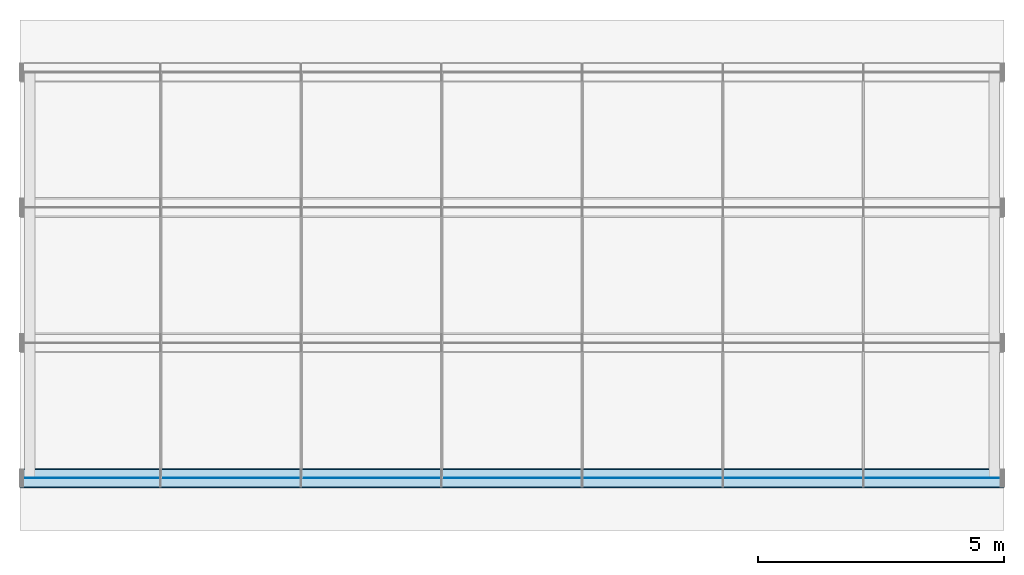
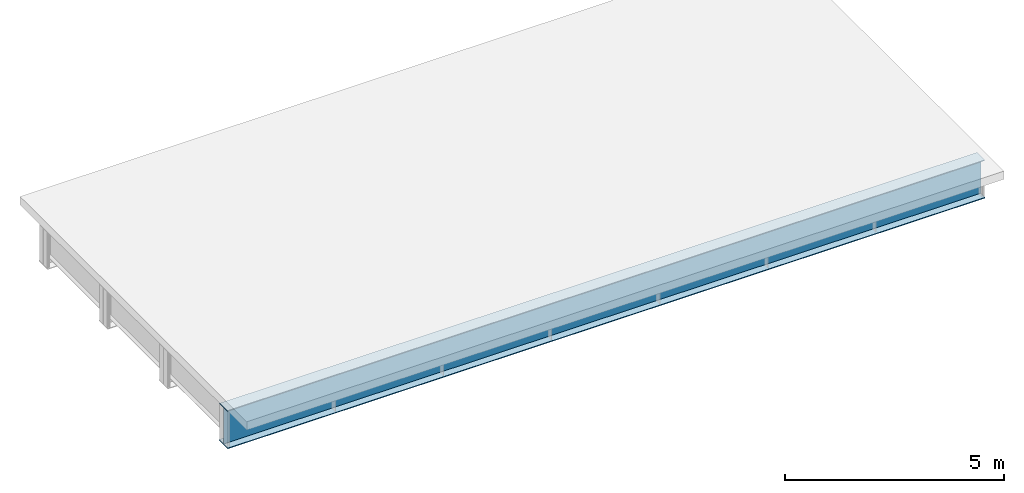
# One storey, part 3 of 12: 3 plates.
"""IFC4 building model written with IfcOpenShell, lengths in metres."""

from ifc_helpers import new_model, si_unit, frame, origin, origin_with_axes, origin_2d_with_axis, place, context, subcontext, project, spatial, rectangle, extrude, element, save


model = new_model("IFC4")

# Units and contexts
model_context = context("Model", 3, precision=1e-05, world=origin())
body_context = subcontext(model_context, "Body", "Model", "MODEL_VIEW")
ifc_project = project(units=[si_unit("LENGTHUNIT", "METRE"), si_unit("AREAUNIT", "SQUARE_METRE"), si_unit("VOLUMEUNIT", "CUBIC_METRE"), si_unit("PLANEANGLEUNIT", "RADIAN")], contexts=[model_context])

# Site, building, storey
site_placement = place(None, origin_with_axes())
site = spatial("IfcSite", under=ifc_project, at=site_placement, Name="Default Site")
building_placement = place(site_placement, origin_with_axes())
building = spatial("IfcBuilding", under=site, at=building_placement, Name="Bridge Structure")
storey_placement = place(building_placement, origin_with_axes())
storey = spatial("IfcBuildingStorey", under=building, at=storey_placement, Name="Superstructure")

# Plates
plate_1_placement = place(storey_placement, frame((0.0, -4.125, 0.0), z_axis=(1.0, 0.0, 0.0), x_axis=(0.0, 1.0, 0.0)))
element("IfcPlate", 1, at=plate_1_placement, inside=storey, Name="Girder Web 1", context=body_context, shape_type="SweptSolid", body=[
    extrude(rectangle(XDim=0.012, YDim=1.01, at=origin_2d_with_axis()), origin_with_axes(), (0.0, 0.0, 1.0), 20.0),
])
plate_2_placement = place(storey_placement, frame((0.0, -4.125, 0.514), z_axis=(1.0, 0.0, 0.0), x_axis=(0.0, 1.0, 0.0)))
element("IfcPlate", 2, at=plate_2_placement, inside=storey, Name="Top Flange 1", context=body_context, shape_type="SweptSolid", body=[
    extrude(rectangle(XDim=0.35000000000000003, YDim=0.018000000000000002, at=origin_2d_with_axis()), origin_with_axes(), (0.0, 0.0, 1.0), 20.0),
])
plate_3_placement = place(storey_placement, frame((0.0, -4.125, -0.516), z_axis=(1.0, 0.0, 0.0), x_axis=(0.0, 1.0, 0.0)))
element("IfcPlate", 3, at=plate_3_placement, inside=storey, Name="Bottom Flange 1", context=body_context, shape_type="SweptSolid", body=[
    extrude(rectangle(XDim=0.4, YDim=0.022, at=origin_2d_with_axis()), origin_with_axes(), (0.0, 0.0, 1.0), 20.0),
])

save(model, "model.ifc")
